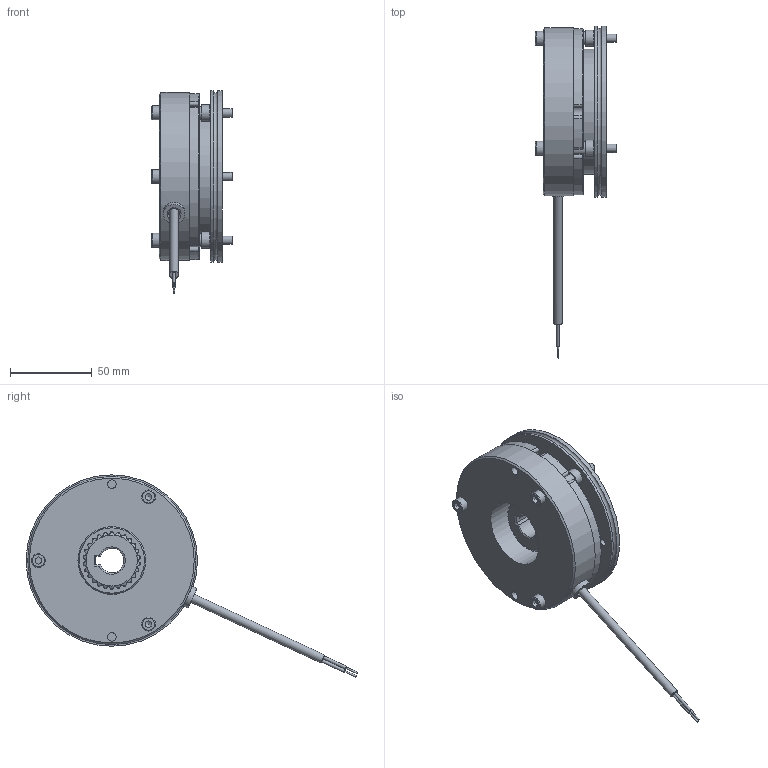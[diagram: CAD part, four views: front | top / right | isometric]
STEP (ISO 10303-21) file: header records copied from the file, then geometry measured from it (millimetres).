
FILE_DESCRIPTION(/* description */ (''),/* implementation_level */ '2;1');
FILE_NAME(/* name */ 'H:\Konstruktion\07 CAD - DATEN Standard für Kunden\BFK557\08\5030280_IPT_BFK557-08_FL_d15H7.stp',/* time_stamp */ '2022-03-16T09:36:42+01:00',/* author */ ('QuadfaselW'),/* organization */ (''),/* preprocessor_version */ 'ST-DEVELOPER v17',/* originating_system */ 'Autodesk Inventor 2018',/* authorisation */ '');
FILE_SCHEMA (('AUTOMOTIVE_DESIGN { 1 0 10303 214 3 1 1 }'));
Length unit declared in the file: millimetre
Products named in the file (1): 5030280
Bounding box: 50 x 203.26 x 123.94 mm (x, y, z)
Volume: 259217 mm3; surface area: 72351.6 mm2
Topology: 1 solids, 1 shells, 514 faces, 1744 edges, 1170 vertices
Faces by surface type: cylinder 253, plane 150, bspline 53, cone 30, torus 28
Full cylindrical faces by diameter (mm): 1 x2, 1.85 x2, 4.134 x3, 5 x3, 5.15 x3, 5.3 x6, 5.5 x4, 6.6 x1, 6.7 x1, 7.188 x3, 8 x3, 8.4 x3, 8.5 x3, 10 x3, 13.2 x1, 40 x1, 41 x1, 41.5 x2, 76.5 x1, 103 x1, 105 x2
Entity records: 24154 total; most frequent: CARTESIAN_POINT 8542, ORIENTED_EDGE 3484, DIRECTION 2929, EDGE_CURVE 1742, VERTEX_POINT 1170, AXIS2_PLACEMENT_3D 1159, CIRCLE 697, LINE 611
